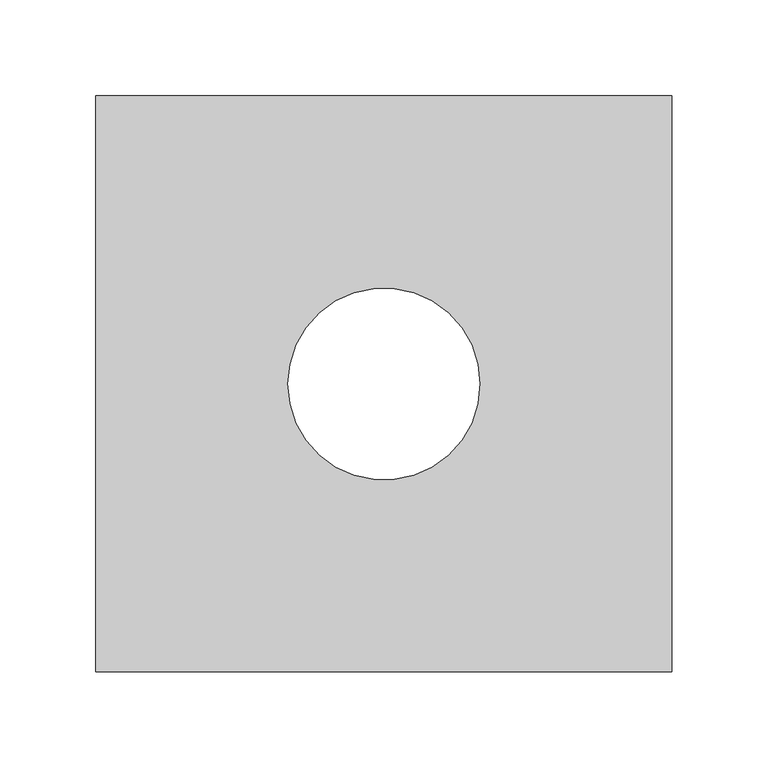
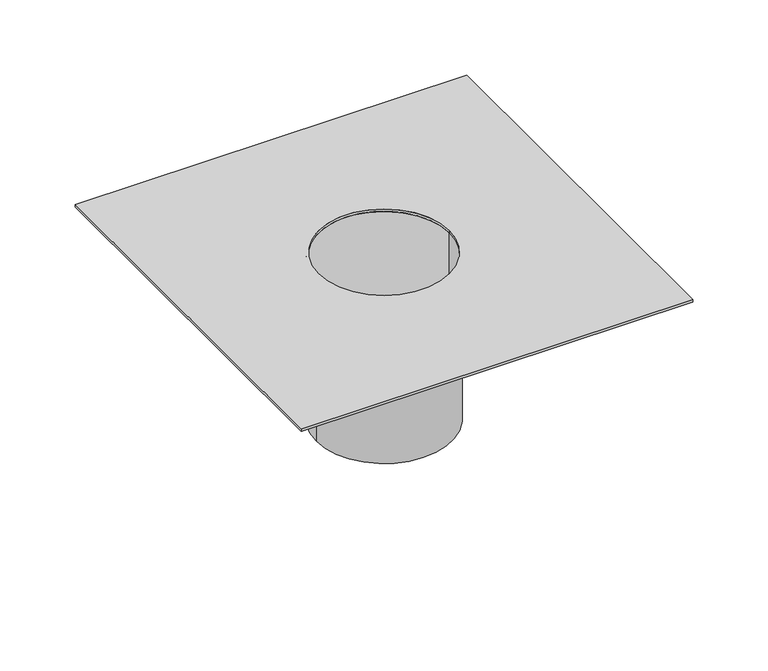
"""IFC4 building model written with IfcOpenShell, lengths in millimetres: proxy geometry, Viaboc Ralo 100mm : Viaboc Ralo 100mm."""

from ifc_helpers import new_model, si_unit, point, frame, origin, origin_with_axes, origin_2d, place, context, project, spatial, polyline, circle_curve, trimmed, segment, composite_curve, outline, extrude, source, transform, mapped, element, save


def entourage_4fe8ca71(model_context):
    return source(origin(), model_context, "Body", "SweptSolid", [
        extrude(outline(composite_curve([segment(trimmed(circle_curve(origin_2d(), 52.0), [point((52.0, 0.0))], [point((-52.0, 0.0))], False, "CARTESIAN"), True, "CONTINUOUS"), segment(trimmed(circle_curve(origin_2d(), 52.0), [point((-52.0, 0.0))], [point((52.0, 0.0))], False, "CARTESIAN"), True, "CONTINUOUS")], self_intersect=False), holes=[composite_curve([segment(trimmed(circle_curve(origin_2d(), 50.0), [point((50.0, 0.0))], [point((-50.0, 0.0))], True, "CARTESIAN"), True, "CONTINUOUS"), segment(trimmed(circle_curve(origin_2d(), 50.0), [point((-50.0, 0.0))], [point((50.0, 0.0))], True, "CARTESIAN"), True, "CONTINUOUS")], self_intersect=False)]), frame((0.0, 0.0, -133.0), z_axis=(0.0, 0.0, 1.0), x_axis=(1.0, 0.0, 0.0)), (0.0, 0.0, 1.0), 133.0),
        extrude(outline(polyline([(150.0, 150.0), (150.0, -150.0), (-150.0, -150.0), (-150.0, 150.0), (150.0, 150.0)]), holes=[composite_curve([segment(trimmed(circle_curve(origin_2d(), 50.0), [point((-50.0, 0.0))], [point((50.0, 0.0))], True, "CARTESIAN"), True, "CONTINUOUS"), segment(trimmed(circle_curve(origin_2d(), 50.0), [point((50.0, 0.0))], [point((-50.0, 0.0))], True, "CARTESIAN"), True, "CONTINUOUS")], self_intersect=False)]), origin_with_axes(), (0.0, 0.0, 1.0), 2.0),
    ])


if __name__ == "__main__":
    model = new_model("IFC4")
    model_context = context("Model", 3, world=origin())
    ifc_project = project(units=[si_unit("LENGTHUNIT", "METRE", prefix="MILLI")], contexts=[model_context])
    site = spatial("IfcSite", under=ifc_project)
    building = spatial("IfcBuilding", under=site)
    placement = place(None, origin())
    entourage_shape = entourage_4fe8ca71(model_context)
    element("IfcBuildingElementProxy", 1, Name="Viaboc Ralo 100mm : Viaboc Ralo 100mm", ObjectType="Viaboc Ralo 100mm : Viaboc Ralo 100mm", at=placement, inside=building, context=model_context, shape_type="MappedRepresentation", body=[
        mapped(entourage_shape, transform((0.0, 0.0, 0.0), x_axis=(1.0, 0.0, 0.0), y_axis=(0.0, 1.0, 0.0), z_axis=(0.0, 0.0, 1.0))),
    ])
    save(model, "model.ifc")
